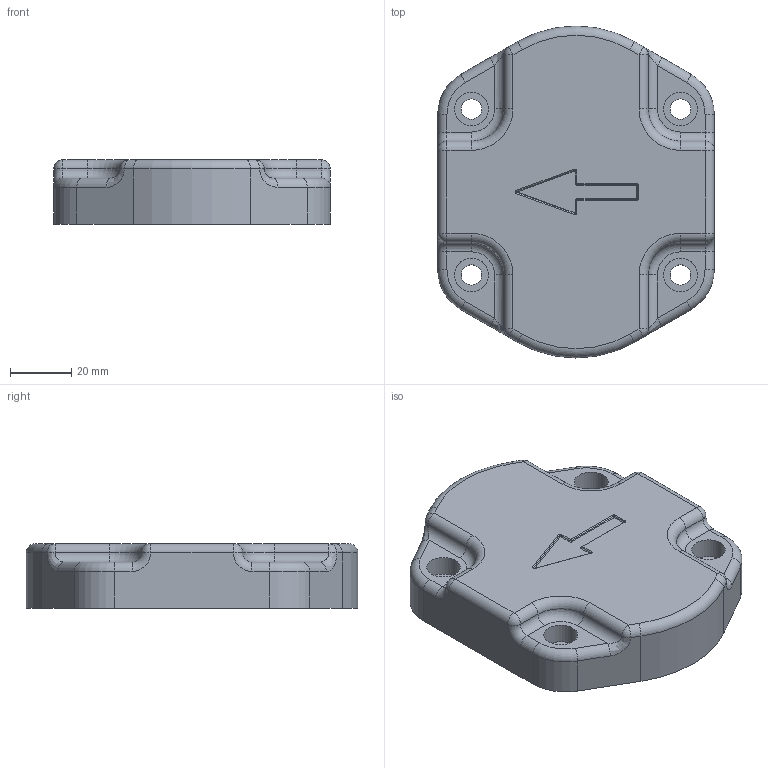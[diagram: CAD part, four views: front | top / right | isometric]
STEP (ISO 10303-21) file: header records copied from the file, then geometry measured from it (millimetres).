
FILE_DESCRIPTION(/* description */ (''),/* implementation_level */ '2;1');
FILE_NAME(/* name */ '',/* time_stamp */ '2026-08-26T18:20:59+09:00',/* author */ ('jhkim'),/* organization */ (''),/* preprocessor_version */ 'ST-DEVELOPER v20.1',/* originating_system */ 'Autodesk Inventor 2027',/* authorisation */ '');
FILE_SCHEMA (('AUTOMOTIVE_DESIGN { 1 0 10303 214 3 1 1 }'));
Length unit declared in the file: millimetre
Products named in the file (1): 커버
Bounding box: 90 x 108 x 21 mm (x, y, z)
Volume: 154580.5 mm3; surface area: 24961.5 mm2
Topology: 1 solids, 1 shells, 137 faces, 303 edges, 175 vertices
Faces by surface type: cylinder 66, torus 29, plane 23, sphere 15, bspline 4
Full cylindrical faces by diameter (mm): 6.6 x4, 11 x4
Entity records: 3936 total; most frequent: DIRECTION 755, CARTESIAN_POINT 732, ORIENTED_EDGE 606, AXIS2_PLACEMENT_3D 318, EDGE_CURVE 303, CIRCLE 176, VERTEX_POINT 175, EDGE_LOOP 152
